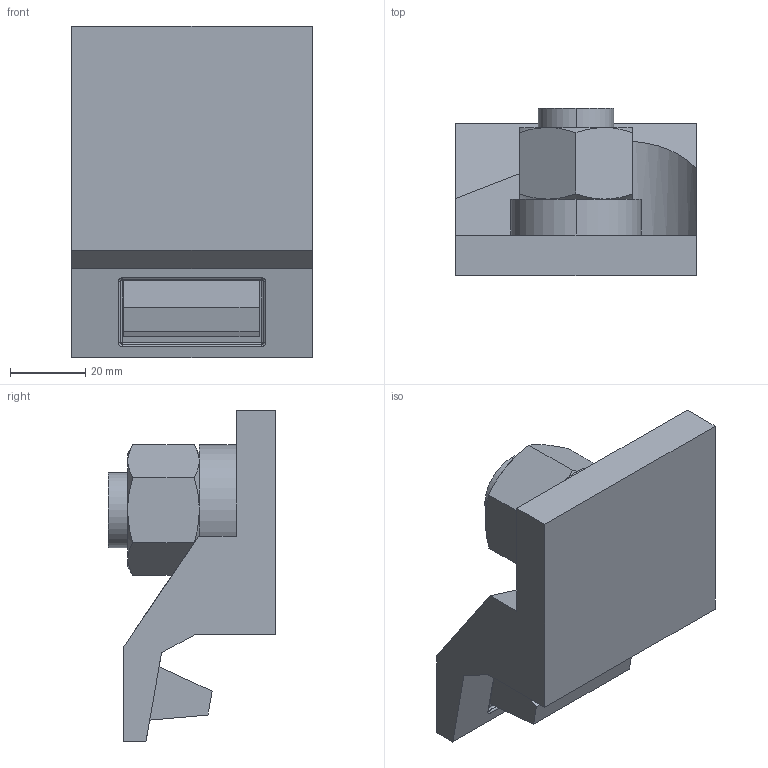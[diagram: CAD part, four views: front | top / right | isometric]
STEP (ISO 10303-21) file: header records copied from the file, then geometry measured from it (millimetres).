
FILE_DESCRIPTION (( 'STEP AP214' ), '1' );
FILE_NAME ('4120-15-40.STEP', '2020-10-14T09:50:56', ( '' ), ( '' ), 'SwSTEP 2.0', 'SolidWorks 2020', '' );
FILE_SCHEMA (( 'AUTOMOTIVE_DESIGN' ));
Length unit declared in the file: millimetre
Products named in the file (5): Washer m20; 36mm Nose; 4120-15-40; hex nut gradec_bsi_BS EN 24034 - M20 - N
Assembly tree (4 placements, depth 2):
  4120-15-40
    4120-15-40
    Washer m20
    hex nut gradec_bsi_BS EN 24034 - M20 - N
    36mm Nose
Bounding box: 64 x 44.5 x 88 mm (x, y, z)
Volume: 104474.5 mm3; surface area: 30043.6 mm2
Topology: 4 solids, 4 shells, 303 faces, 759 edges, 486 vertices
Faces by surface type: plane 184, bspline 58, cylinder 32, cone 16, sphere 9, torus 4
Entity records: 13554 total; most frequent: CARTESIAN_POINT 6683, ORIENTED_EDGE 1502, DIRECTION 1133, EDGE_CURVE 751, VERTEX_POINT 484, VECTOR 463, LINE 463, AXIS2_PLACEMENT_3D 335
